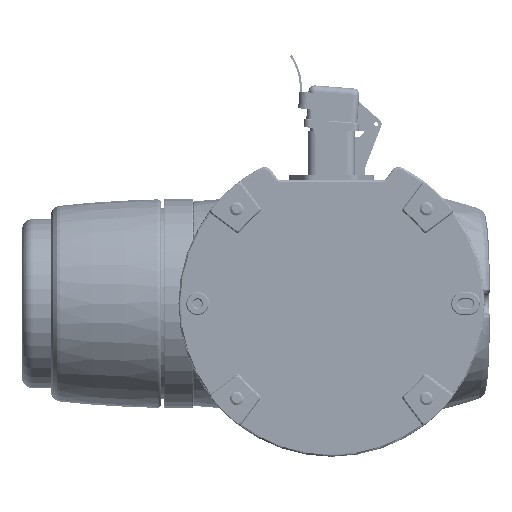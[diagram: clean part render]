
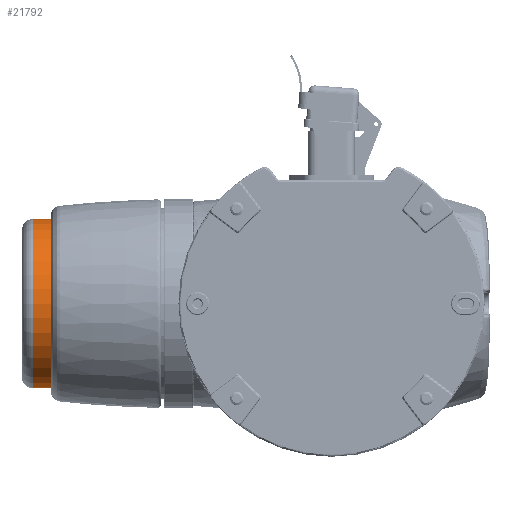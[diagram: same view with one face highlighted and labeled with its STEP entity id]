
A CAD part, front view. The second image highlights one B-rep face of the part: STEP entity #21792.
In plain terms, the highlighted cylindrical face has radius 39.75 mm (diameter 79.5 mm), a partial arc.
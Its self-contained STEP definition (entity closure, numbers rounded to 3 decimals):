
#3069 = DIRECTION ( 'NONE',  ( 1., 0., 0. ) ) ;
#8503 = AXIS2_PLACEMENT_3D ( 'NONE', #137339, #20217, #195833 ) ;
#16561 = CARTESIAN_POINT ( 'NONE',  ( -16.5, 0., 39.75 ) ) ;
#20217 = DIRECTION ( 'NONE',  ( -1., 0., 0. ) ) ;
#21792 = ADVANCED_FACE ( 'NONE', ( #153675 ), #239573, .T. ) ;
#43201 = CARTESIAN_POINT ( 'NONE',  ( -16.5, 0., -39.75 ) ) ;
#48481 = VERTEX_POINT ( 'NONE', #43201 ) ;
#56429 = CARTESIAN_POINT ( 'NONE',  ( -27., 0., -39.75 ) ) ;
#56433 = CARTESIAN_POINT ( 'NONE',  ( -32., 0., 39.75 ) ) ;
#91680 = DIRECTION ( 'NONE',  ( 1., 0., 0. ) ) ;
#125305 = EDGE_CURVE ( 'NONE', #330819, #329297, #239115, .T. ) ;
#133031 = VECTOR ( 'NONE', #91680, 1000. ) ;
#135469 = ORIENTED_EDGE ( 'NONE', *, *, #219312, .F. ) ;
#137339 = CARTESIAN_POINT ( 'NONE',  ( -16.5, 0., 0. ) ) ;
#138586 = EDGE_CURVE ( 'NONE', #329297, #48481, #384345, .T. ) ;
#153675 = FACE_OUTER_BOUND ( 'NONE', #337504, .T. ) ;
#153927 = CARTESIAN_POINT ( 'NONE',  ( -27., 0., 39.75 ) ) ;
#157715 = AXIS2_PLACEMENT_3D ( 'NONE', #356596, #358528, #354678 ) ;
#170237 = VECTOR ( 'NONE', #317970, 1000. ) ;
#195833 = DIRECTION ( 'NONE',  ( 0., 0., -1. ) ) ;
#217626 = VERTEX_POINT ( 'NONE', #16561 ) ;
#219312 = EDGE_CURVE ( 'NONE', #330819, #217626, #319880, .T. ) ;
#239115 = CIRCLE ( 'NONE', #313742, 39.75 ) ;
#239573 = CYLINDRICAL_SURFACE ( 'NONE', #157715, 39.75 ) ;
#258126 = ORIENTED_EDGE ( 'NONE', *, *, #138586, .T. ) ;
#269200 = CARTESIAN_POINT ( 'NONE',  ( -32., 0., -39.75 ) ) ;
#289009 = EDGE_CURVE ( 'NONE', #48481, #217626, #295020, .T. ) ;
#295020 = CIRCLE ( 'NONE', #8503, 39.75 ) ;
#313742 = AXIS2_PLACEMENT_3D ( 'NONE', #385498, #3069, #330784 ) ;
#317970 = DIRECTION ( 'NONE',  ( 1., 0., 0. ) ) ;
#319880 = LINE ( 'NONE', #56433, #170237 ) ;
#329297 = VERTEX_POINT ( 'NONE', #56429 ) ;
#330784 = DIRECTION ( 'NONE',  ( 0., 0., -1. ) ) ;
#330819 = VERTEX_POINT ( 'NONE', #153927 ) ;
#336152 = ORIENTED_EDGE ( 'NONE', *, *, #125305, .T. ) ;
#337504 = EDGE_LOOP ( 'NONE', ( #135469, #336152, #258126, #375786 ) ) ;
#354678 = DIRECTION ( 'NONE',  ( 0., 0., -1. ) ) ;
#356596 = CARTESIAN_POINT ( 'NONE',  ( -32., 0., 0. ) ) ;
#358528 = DIRECTION ( 'NONE',  ( 1., 0., 0. ) ) ;
#375786 = ORIENTED_EDGE ( 'NONE', *, *, #289009, .T. ) ;
#384345 = LINE ( 'NONE', #269200, #133031 ) ;
#385498 = CARTESIAN_POINT ( 'NONE',  ( -27., 0., 0. ) ) ;
